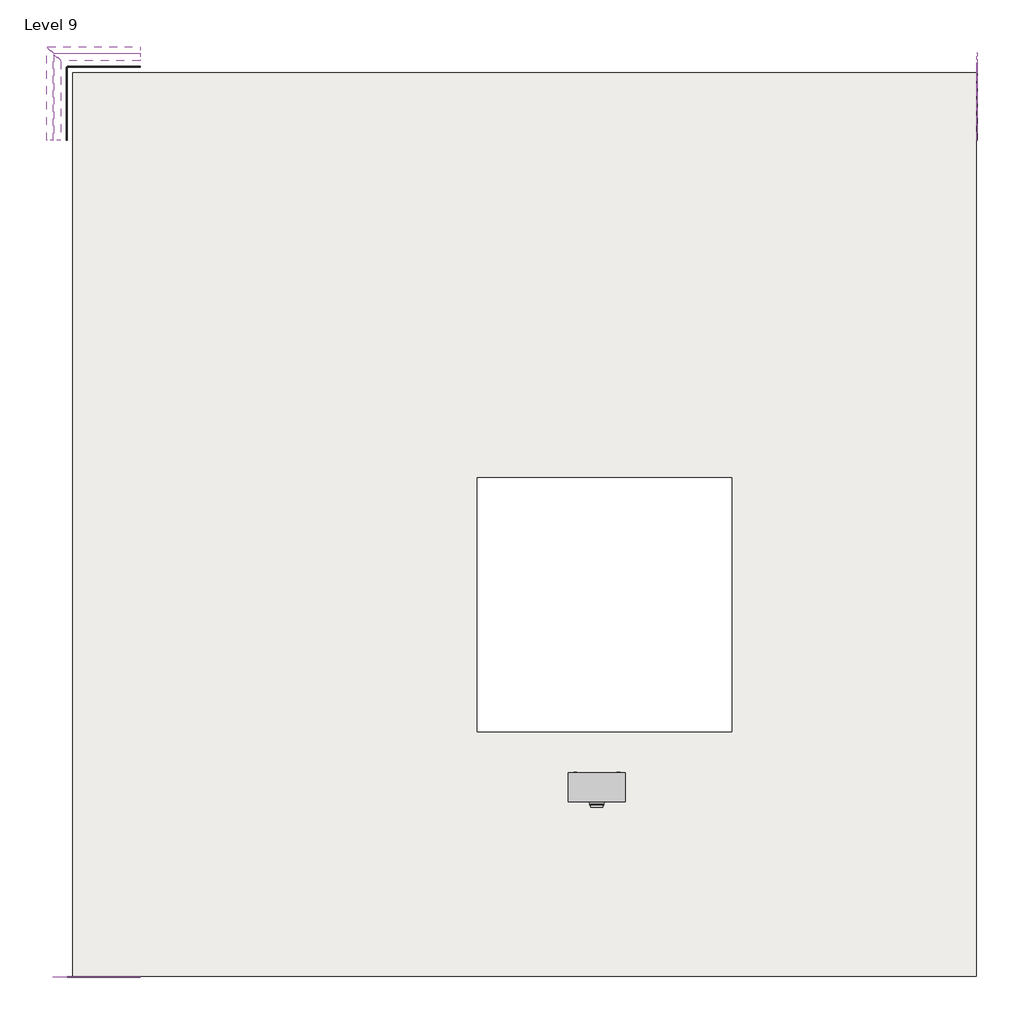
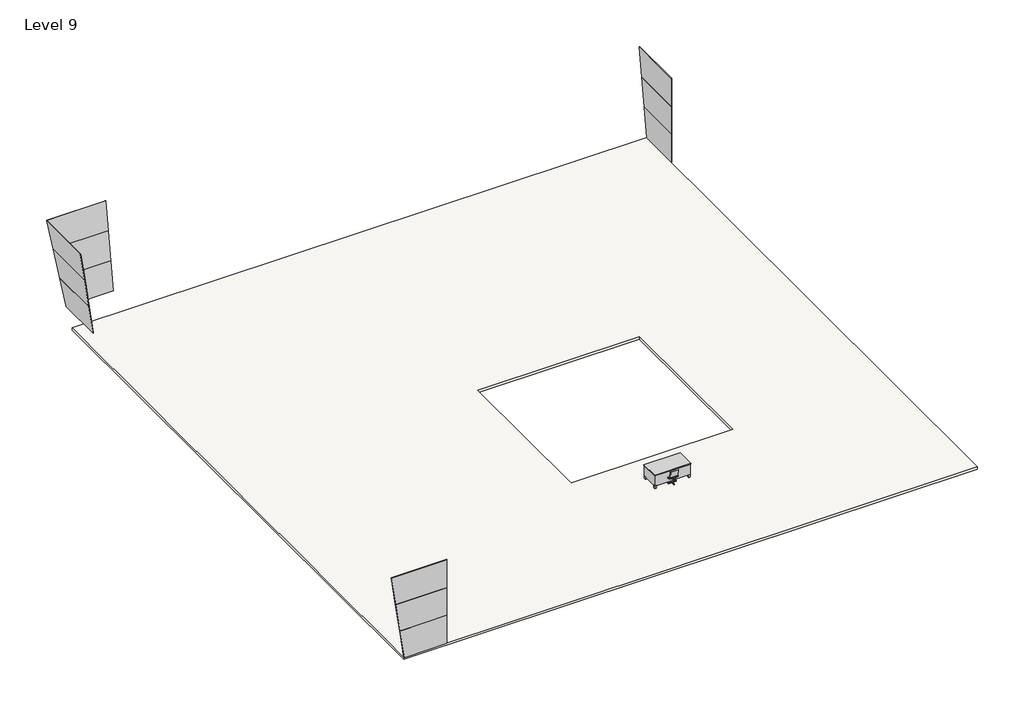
# One storey, incomplete: 12 plates, 2 furniture elements, 1 slab.
"""IFC4 building model written with IfcOpenShell, lengths in millimetres."""

import ifcopenshell
import ifcopenshell.guid

model = None  # the IFC model being written
_history = None  # IfcOwnerHistory: only IFC2X3 demands one
_inside = {}  # id of a spatial element -> (the spatial element, [elements in it])
_under = {}  # id of a project, library or spatial element -> (it, [spatial elements below it])
_declared = {}  # id of a project -> (the project, [libraries it declares])
_typed = {}  # id of a type object -> (the type object, [elements of that type])
_made_of = {}  # id of a material, layer set ... -> (it, [elements and type objects made of it])


def new_model(schema):
    """Start an empty IFC model of exactly this schema.

    Asked for "IFC4X3", IfcOpenShell would pick the latest addendum, in which some entities
    have other attributes; the version numbers below select the first issue.
    IFC2X3 requires an IfcOwnerHistory on every rooted entity: one is made here for all.
    """
    global model, _history
    if schema == "IFC4X3":
        model = ifcopenshell.file(schema_version=(4, 3, 0, 0))
    else:
        model = ifcopenshell.file(schema=schema)
    _inside.clear()
    _under.clear()
    _declared.clear()
    _typed.clear()
    _made_of.clear()
    _history = None
    if model.schema == "IFC2X3":
        org = make("IfcOrganization", Name="unknown")
        user = make(
            "IfcPersonAndOrganization",
            ThePerson=make("IfcPerson", FamilyName="unknown"),
            TheOrganization=org,
        )
        app = make(
            "IfcApplication",
            ApplicationDeveloper=org,
            Version="unknown",
            ApplicationFullName="unknown",
            ApplicationIdentifier="unknown",
        )
        _history = make(
            "IfcOwnerHistory",
            OwningUser=user,
            OwningApplication=app,
            ChangeAction="ADDED",
            CreationDate=0,
        )
    return model


def make(cls, **values):
    """One entity of the class cls with the attributes given. An attribute that is None is left unset."""
    return model.create_entity(
        cls, **{name: value for name, value in values.items() if value is not None}
    )


def rooted(cls, **values):
    """An entity with a GlobalId (a new one), such as an element, a storey or a relation."""
    return make(cls, GlobalId=ifcopenshell.guid.new(), OwnerHistory=_history, **values)


def si_unit(unit_type, name, prefix=None):
    """IfcSIUnit, for example si_unit("LENGTHUNIT", "METRE", prefix="MILLI")."""
    return make("IfcSIUnit", UnitType=unit_type, Prefix=prefix, Name=name)


def assignment(units):
    """IfcUnitAssignment: the units of a project."""
    return None if units is None else make("IfcUnitAssignment", Units=units)


def point(xyz):
    """IfcCartesianPoint."""
    return None if xyz is None else make("IfcCartesianPoint", Coordinates=xyz)


def direction(xyz):
    """IfcDirection."""
    return None if xyz is None else make("IfcDirection", DirectionRatios=xyz)


def frame(location, z_axis=None, x_axis=None):
    """IfcAxis2Placement3D, a coordinate frame: its origin and axes. An axis left out is left unset."""
    return make(
        "IfcAxis2Placement3D",
        Location=point(location),
        Axis=direction(z_axis),
        RefDirection=direction(x_axis),
    )


def frame_2d(location, x_axis=None):
    """IfcAxis2Placement2D, a coordinate frame in the plane: its origin and x axis."""
    return make(
        "IfcAxis2Placement2D", Location=point(location), RefDirection=direction(x_axis)
    )


def origin():
    """The frame at (0, 0, 0) with its axes left unset."""
    return frame((0.0, 0.0, 0.0))


def origin_with_axes():
    """The frame at (0, 0, 0) with the z axis (0, 0, 1) and the x axis (1, 0, 0) written out."""
    return frame((0.0, 0.0, 0.0), z_axis=(0.0, 0.0, 1.0), x_axis=(1.0, 0.0, 0.0))


def place(relative_to, where):
    """IfcLocalPlacement: puts the frame where relative to a parent placement (None: the world)."""
    return make(
        "IfcLocalPlacement", PlacementRelTo=relative_to, RelativePlacement=where
    )


def context(
    kind, dimensions, precision=None, world=None, true_north=None, identifier=None
):
    """IfcGeometricRepresentationContext, for example the 3D "Model" context."""
    return make(
        "IfcGeometricRepresentationContext",
        ContextIdentifier=identifier,
        ContextType=kind,
        CoordinateSpaceDimension=dimensions,
        Precision=precision,
        WorldCoordinateSystem=world,
        TrueNorth=true_north,
    )


def project(units=None, contexts=None):
    """IfcProject with its units and contexts."""
    return rooted(
        "IfcProject",
        Name="project",
        RepresentationContexts=contexts,
        UnitsInContext=assignment(units),
    )


def spatial(cls, under=None, at=None, **own):
    """A site, building, storey or space (cls), placed at a placement, below another one or the project."""
    s = rooted(cls, ObjectPlacement=at, **own)
    if under is not None:
        _under.setdefault(under.id(), (under, []))[1].append(s)
    return s


def polyline(points):
    """IfcPolyline through the points."""
    return make("IfcPolyline", Points=[point(p) for p in points])


def circle_curve(where, radius):
    """IfcCircle in the frame where."""
    return make("IfcCircle", Position=where, Radius=radius)


def trimmed(basis, trim1, trim2, sense, master):
    """IfcTrimmedCurve: the piece of a basis curve between two trims."""
    return make(
        "IfcTrimmedCurve",
        BasisCurve=basis,
        Trim1=trim1,
        Trim2=trim2,
        SenseAgreement=sense,
        MasterRepresentation=master,
    )


def segment(curve, same_sense, transition):
    """IfcCompositeCurveSegment."""
    return make(
        "IfcCompositeCurveSegment",
        Transition=transition,
        SameSense=same_sense,
        ParentCurve=curve,
    )


def composite_curve(segments, self_intersect=None):
    """IfcCompositeCurve: segments joined end to end."""
    return make("IfcCompositeCurve", Segments=segments, SelfIntersect=self_intersect)


def outline(outer, holes=None, kind="AREA"):
    """IfcArbitraryClosedProfileDef: a profile drawn as a closed curve; with holes, ...WithVoids."""
    if holes is None:
        return make("IfcArbitraryClosedProfileDef", ProfileType=kind, OuterCurve=outer)
    return make(
        "IfcArbitraryProfileDefWithVoids",
        ProfileType=kind,
        OuterCurve=outer,
        InnerCurves=holes,
    )


def extrude(swept, where, along, depth):
    """IfcExtrudedAreaSolid: the profile swept, set in the frame where, extruded along a direction by depth."""
    return make(
        "IfcExtrudedAreaSolid",
        SweptArea=swept,
        Position=where,
        ExtrudedDirection=direction(along),
        Depth=depth,
    )


def faces_of(points, faces, orient=None, outer=None):
    """IfcFace entities. A face is a list of loops; a loop is a list of indices into points, from 0.

    orient and outer hold one flag for each loop. By default every Orientation is true, the
    first loop of a face is its IfcFaceOuterBound and the others are IfcFaceBound.
    """
    made = []
    for i, loops in enumerate(faces):
        bounds = []
        for j, loop in enumerate(loops):
            is_outer = j == 0 if outer is None else outer[i][j]
            bounds.append(
                make(
                    "IfcFaceOuterBound" if is_outer else "IfcFaceBound",
                    Bound=make("IfcPolyLoop", Polygon=[points[k] for k in loop]),
                    Orientation=True if orient is None else orient[i][j],
                )
            )
        made.append(make("IfcFace", Bounds=bounds))
    return made


def faceted_brep(points, faces, orient=None, outer=None, voids=None):
    """IfcFacetedBrep: a solid bounded by flat faces; with voids (closed shells), ...WithVoids."""
    shared = [point(p) for p in points]
    hull = make("IfcClosedShell", CfsFaces=faces_of(shared, faces, orient, outer))
    if voids is None:
        return make("IfcFacetedBrep", Outer=hull)
    return make(
        "IfcFacetedBrepWithVoids",
        Outer=hull,
        Voids=[
            make(cls, CfsFaces=faces_of(shared, fs, o, b)) for cls, fs, o, b in voids
        ],
    )


def shape(context_of_items, identifier, shape_type, items):
    """IfcShapeRepresentation: the items that make up one representation, for example the "Body"."""
    return make(
        "IfcShapeRepresentation",
        ContextOfItems=context_of_items,
        RepresentationIdentifier=identifier,
        RepresentationType=shape_type,
        Items=items,
    )


def source(mapping_origin, context_of_items, identifier, shape_type, items):
    """IfcRepresentationMap: a shape defined once, which mapped items show again and again."""
    return make(
        "IfcRepresentationMap",
        MappingOrigin=mapping_origin,
        MappedRepresentation=shape(context_of_items, identifier, shape_type, items),
    )


def transform(
    local_origin,
    x_axis=None,
    y_axis=None,
    z_axis=None,
    scale=None,
    scale2=None,
    scale3=None,
    uniform=True,
):
    """IfcCartesianTransformationOperator3D, or its non-uniform kind. x_axis, y_axis, z_axis: its Axis1, 2, 3."""
    if uniform:
        return make(
            "IfcCartesianTransformationOperator3D",
            Axis1=direction(x_axis),
            Axis2=direction(y_axis),
            LocalOrigin=point(local_origin),
            Scale=scale,
            Axis3=direction(z_axis),
        )
    return make(
        "IfcCartesianTransformationOperator3DnonUniform",
        Axis1=direction(x_axis),
        Axis2=direction(y_axis),
        LocalOrigin=point(local_origin),
        Scale=scale,
        Axis3=direction(z_axis),
        Scale2=scale2,
        Scale3=scale3,
    )


def mapped(mapping_source, mapping_target):
    """IfcMappedItem: shows the shape of a source again, moved by a transform."""
    return make(
        "IfcMappedItem", MappingSource=mapping_source, MappingTarget=mapping_target
    )


def made_of(thing, what):
    """Note that an element or type object is made of a material, layer set ...; save() writes the relation."""
    if what is not None:
        _made_of.setdefault(what.id(), (what, []))[1].append(thing)
    return thing


def element(
    cls,
    number,
    at=None,
    inside=None,
    cuts=None,
    type_object=None,
    material=None,
    context=None,
    identifier="Body",
    shape_type=None,
    held_by="IfcProductDefinitionShape",
    body=None,
    shapes=None,
    **own,
):
    """One element of the class cls, such as IfcWall. Its Tag is "e" and its number.

    at: its placement. inside: the storey or other place that contains it. cuts: it is an
    opening in that element (IfcRelVoidsElement). A single representation is given by context,
    identifier, shape_type and body (its items); several are given by shapes. held_by: the class
    of the entity that holds the representations. save() writes the other relations.
    """
    e = rooted(cls, Tag="e%d" % number, ObjectPlacement=at, **own)
    if body is not None:
        shapes = [shape(context, identifier, shape_type, body)]
    if shapes is not None:
        e.Representation = make(held_by, Representations=shapes)
    if inside is not None:
        _inside.setdefault(inside.id(), (inside, []))[1].append(e)
    if cuts is not None:
        rooted(
            "IfcRelVoidsElement", RelatingBuildingElement=cuts, RelatedOpeningElement=e
        )
    if type_object is not None:
        _typed.setdefault(type_object.id(), (type_object, []))[1].append(e)
    return made_of(e, material)


def aggregate(whole, parts):
    """IfcRelAggregates: a whole, such as a stair, and the parts it consists of."""
    return rooted("IfcRelAggregates", RelatingObject=whole, RelatedObjects=parts)


def save(model, path):
    """Write the relations noted so far, then the file.

    IfcRelAggregates (storeys below a building ...), IfcRelContainedInSpatialStructure (elements
    in a storey), IfcRelDefinesByType, IfcRelAssociatesMaterial and IfcRelDeclares: one each for
    every whole, place, type object, material and project.
    """
    for whole, parts in _under.values():
        aggregate(whole, parts)
    for where, things in _inside.values():
        rooted(
            "IfcRelContainedInSpatialStructure",
            RelatedElements=things,
            RelatingStructure=where,
        )
    for kind, things in _typed.values():
        rooted("IfcRelDefinesByType", RelatedObjects=things, RelatingType=kind)
    for what, things in _made_of.values():
        rooted("IfcRelAssociatesMaterial", RelatedObjects=things, RelatingMaterial=what)
    for by, libraries in _declared.values():
        rooted("IfcRelDeclares", RelatingContext=by, RelatedDefinitions=libraries)
    model.write(path)


def chair_desk_chair_desk_ccc35c8f(model_context):
    return source(origin(), model_context, "Body", "SweptSolid", [
        extrude(outline(polyline([(-203.6618182, 175.0290909), (-25.8618182, 175.0290909), (-25.8618182, 150.0462968), (-203.6618182, 150.0462968), (-203.6618182, 175.0290909)])), origin_with_axes(), (0.0, 0.0, 1.0), 58.5040426),
        extrude(outline(polyline([(204.1236364, 175.0290909), (204.1236364, 152.4), (26.7854545, 152.4), (26.7854545, 175.0290909), (204.1236364, 175.0290909)])), origin_with_axes(), (0.0, 0.0, 1.0), 58.5040426),
        extrude(outline(polyline([(-16.1636364, 188.8836364), (-16.1636364, 374.9517514), (14.3163636, 374.9517514), (14.3163636, 188.8836364), (-16.1636364, 188.8836364)])), origin_with_axes(), (0.0, 0.0, 1.0), 58.5040426),
        extrude(outline(polyline([(14.3163636, 136.2363636), (14.3163636, -33.2509091), (-16.1636364, -33.2509091), (-16.1636364, 136.2363636), (14.3163636, 136.2363636)])), origin_with_axes(), (0.0, 0.0, 1.0), 58.5040426),
        extrude(outline(polyline([(26.3236364, 190.2690909), (26.3236364, 139.4690909), (-24.4763636, 139.4690909), (-24.4763636, 190.2690909), (26.3236364, 190.2690909)])), origin_with_axes(), (0.0, 0.0, 1.0), 355.6),
        extrude(outline(composite_curve([segment(polyline([(-13.6321252, 787.4), (25.5523927, 451.3880753)]), True, "CONTINUOUS"), segment(trimmed(circle_curve(frame_2d((0.0761963, 451.3880753)), 25.4761963), [point((25.5523927, 451.3880753))], [point((-25.4, 451.3880753))], False, "CARTESIAN"), True, "CONTINUOUS"), segment(polyline([(-25.4, 451.3880753), (-67.209111, 787.4)]), True, "CONTINUOUS"), segment(trimmed(circle_curve(frame_2d((-40.4206181, 787.4)), 26.7884929), [point((-67.209111, 787.4))], [point((-13.6321252, 787.4))], False, "CARTESIAN"), True, "CONTINUOUS")], self_intersect=False)), frame((-194.3643056, 0.0, 0.0), z_axis=(1.0, 0.0, 0.0), x_axis=(0.0, 1.0, 0.0)), (0.0, 0.0, 1.0), 383.2768056),
        extrude(outline(composite_curve([segment(trimmed(circle_curve(frame_2d((-157.1362322, 297.1024212)), 109.4001491), [point((-266.4057871, 302.4462968))], [point((-152.4, 406.4))], False, "CARTESIAN"), True, "CONTINUOUS"), segment(polyline([(-152.4, 406.4), (162.2530084, 406.4)]), True, "CONTINUOUS"), segment(trimmed(circle_curve(frame_2d((162.2530084, 302.4462968)), 103.9537032), [point((162.2530084, 406.4))], [point((266.2067116, 302.4462968))], False, "CARTESIAN"), True, "CONTINUOUS"), segment(polyline([(266.2067116, 302.4462968), (228.6, 0.0)]), True, "CONTINUOUS"), segment(trimmed(circle_curve(frame_2d((0.0, 446.8941036)), 501.9684252), [point((228.6, 0.0))], [point((-228.6, 0.0))], False, "CARTESIAN"), True, "CONTINUOUS"), segment(polyline([(-228.6, 0.0), (-266.4057871, 302.4462968)]), True, "CONTINUOUS")], self_intersect=False)), frame((0.0, 0.0, 355.6), z_axis=(0.0, 0.0, 1.0), x_axis=(1.0, 0.0, 0.0)), (0.0, 0.0, 1.0), 50.8),
    ])


def furniture_2fc54265(model_context):
    return source(origin(), model_context, "Body", "SolidModel", [
        extrude(outline(polyline([(1809.75, 914.4), (1441.45, 914.4), (1441.45, 927.1), (1809.75, 927.1), (1809.75, 914.4)])), frame((0.0, 0.0, 603.25), z_axis=(0.0, 0.0, 1.0), x_axis=(1.0, 0.0, 0.0)), (0.0, 0.0, 1.0), 101.6),
        extrude(outline(polyline([(1809.75, 914.4), (1441.45, 914.4), (1441.45, 927.1), (1809.75, 927.1), (1809.75, 914.4)])), frame((0.0, 0.0, 171.45), z_axis=(0.0, 0.0, 1.0), x_axis=(1.0, 0.0, 0.0)), (0.0, 0.0, 1.0), 412.75),
        extrude(outline(polyline([(387.35, 914.4), (19.05, 914.4), (19.05, 927.1), (387.35, 927.1), (387.35, 914.4)])), frame((0.0, 0.0, 603.25), z_axis=(0.0, 0.0, 1.0), x_axis=(1.0, 0.0, 0.0)), (0.0, 0.0, 1.0), 101.6),
        extrude(outline(polyline([(387.35, 914.4), (19.05, 914.4), (19.05, 927.1), (387.35, 927.1), (387.35, 914.4)])), frame((0.0, 0.0, 171.45), z_axis=(0.0, 0.0, 1.0), x_axis=(1.0, 0.0, 0.0)), (0.0, 0.0, 1.0), 171.45),
        extrude(outline(polyline([(387.35, 914.4), (19.05, 914.4), (19.05, 927.1), (387.35, 927.1), (387.35, 914.4)])), frame((0.0, 0.0, 482.6), z_axis=(0.0, 0.0, 1.0), x_axis=(1.0, 0.0, 0.0)), (0.0, 0.0, 1.0), 101.6),
        extrude(outline(polyline([(387.35, 914.4), (19.05, 914.4), (19.05, 927.1), (387.35, 927.1), (387.35, 914.4)])), frame((0.0, 0.0, 361.95), z_axis=(0.0, 0.0, 1.0), x_axis=(1.0, 0.0, 0.0)), (0.0, 0.0, 1.0), 101.6),
        faceted_brep([(1727.2, 914.4, 152.4), (1727.2, 812.8, 152.4), (1828.8, 812.8, 152.4), (1828.8, 914.4, 152.4), (1752.6, 914.4, 0.0), (1828.8, 914.4, 0.0), (1828.8, 838.2, 0.0), (1752.6, 838.2, 0.0)], [[[0, 1, 2, 3]], [[4, 5, 6, 7]], [[4, 7, 1, 0]], [[7, 6, 2, 1]], [[6, 5, 3, 2]], [[5, 4, 0, 3]]]),
        faceted_brep([(1727.2, 0.0, 152.4), (1828.8, 0.0, 152.4), (1828.8, 101.6, 152.4), (1727.2, 101.6, 152.4), (1752.6, 0.0, 0.0), (1752.6, 76.2, 0.0), (1828.8, 76.2, 0.0), (1828.8, 0.0, 0.0)], [[[0, 1, 2, 3]], [[4, 5, 6, 7]], [[4, 7, 1, 0]], [[7, 6, 2, 1]], [[6, 5, 3, 2]], [[5, 4, 0, 3]]]),
        faceted_brep([(101.6, 0.0, 152.4), (101.6, 101.6, 152.4), (0.0, 101.6, 152.4), (0.0, 0.0, 152.4), (76.2, 0.0, 0.0), (0.0, 0.0, 0.0), (0.0, 76.2, 0.0), (76.2, 76.2, 0.0)], [[[0, 1, 2, 3]], [[4, 5, 6, 7]], [[4, 7, 1, 0]], [[7, 6, 2, 1]], [[6, 5, 3, 2]], [[5, 4, 0, 3]]]),
        faceted_brep([(101.6, 914.4, 152.4), (0.0, 914.4, 152.4), (0.0, 812.8, 152.4), (101.6, 812.8, 152.4), (76.2, 914.4, 0.0), (76.2, 838.2, 0.0), (0.0, 838.2, 0.0), (0.0, 914.4, 0.0)], [[[0, 1, 2, 3]], [[4, 5, 6, 7]], [[4, 7, 1, 0]], [[7, 6, 2, 1]], [[6, 5, 3, 2]], [[5, 4, 0, 3]]]),
        extrude(outline(polyline([(1847.85, 933.45), (1847.85, -19.05), (-19.05, -19.05), (-19.05, 933.45), (1847.85, 933.45)])), frame((0.0, 0.0, 723.9), z_axis=(0.0, 0.0, 1.0), x_axis=(1.0, 0.0, 0.0)), (0.0, 0.0, 1.0), 38.1),
        extrude(outline(polyline([(406.4, 914.4), (406.4, 50.8), (1422.4, 50.8), (1422.4, 914.4), (1828.8, 914.4), (1828.8, 0.0), (0.0, 0.0), (0.0, 914.4), (406.4, 914.4)])), frame((0.0, 0.0, 152.4), z_axis=(0.0, 0.0, 1.0), x_axis=(1.0, 0.0, 0.0)), (0.0, 0.0, 1.0), 571.5),
        faceted_brep([(1670.05, 927.1, 546.1), (1670.05, 927.1, 533.4), (1676.4, 927.1, 533.4), (1676.4, 927.1, 546.1), (1670.05, 946.15, 546.1), (1670.05, 946.15, 533.4), (1676.4, 952.5, 533.4), (1676.4, 952.5, 546.1), (1581.15, 946.15, 546.1), (1581.15, 946.15, 533.4), (1574.8, 952.5, 533.4), (1574.8, 952.5, 546.1), (1581.15, 927.1, 546.1), (1574.8, 927.1, 546.1), (1574.8, 927.1, 533.4), (1581.15, 927.1, 533.4)], [[[0, 1, 2, 3]], [[1, 0, 4, 5]], [[2, 1, 5, 6]], [[3, 2, 6, 7]], [[0, 3, 7, 4]], [[5, 4, 8, 9]], [[6, 5, 9, 10]], [[7, 6, 10, 11]], [[4, 7, 11, 8]], [[12, 13, 14, 15]], [[9, 8, 12, 15]], [[10, 9, 15, 14]], [[11, 10, 14, 13]], [[8, 11, 13, 12]]]),
        faceted_brep([(1670.05, 927.1, 666.75), (1670.05, 927.1, 654.05), (1676.4, 927.1, 654.05), (1676.4, 927.1, 666.75), (1670.05, 946.15, 666.75), (1670.05, 946.15, 654.05), (1676.4, 952.5, 654.05), (1676.4, 952.5, 666.75), (1581.15, 946.15, 666.75), (1581.15, 946.15, 654.05), (1574.8, 952.5, 654.05), (1574.8, 952.5, 666.75), (1581.15, 927.1, 666.75), (1574.8, 927.1, 666.75), (1574.8, 927.1, 654.05), (1581.15, 927.1, 654.05)], [[[0, 1, 2, 3]], [[1, 0, 4, 5]], [[2, 1, 5, 6]], [[3, 2, 6, 7]], [[0, 3, 7, 4]], [[5, 4, 8, 9]], [[6, 5, 9, 10]], [[7, 6, 10, 11]], [[4, 7, 11, 8]], [[12, 13, 14, 15]], [[9, 8, 12, 15]], [[10, 9, 15, 14]], [[11, 10, 14, 13]], [[8, 11, 13, 12]]]),
        faceted_brep([(158.75, 927.1, 304.8), (152.4, 927.1, 304.8), (152.4, 927.1, 292.1), (158.75, 927.1, 292.1), (158.75, 946.15, 304.8), (152.4, 952.5, 304.8), (152.4, 952.5, 292.1), (158.75, 946.15, 292.1), (247.65, 946.15, 304.8), (254.0, 952.5, 304.8), (254.0, 952.5, 292.1), (247.65, 946.15, 292.1), (247.65, 927.1, 304.8), (247.65, 927.1, 292.1), (254.0, 927.1, 292.1), (254.0, 927.1, 304.8)], [[[0, 1, 2, 3]], [[1, 0, 4, 5]], [[2, 1, 5, 6]], [[3, 2, 6, 7]], [[0, 3, 7, 4]], [[5, 4, 8, 9]], [[6, 5, 9, 10]], [[7, 6, 10, 11]], [[4, 7, 11, 8]], [[12, 13, 14, 15]], [[9, 8, 12, 15]], [[10, 9, 15, 14]], [[11, 10, 14, 13]], [[8, 11, 13, 12]]]),
        faceted_brep([(158.75, 927.1, 425.45), (152.4, 927.1, 425.45), (152.4, 927.1, 412.75), (158.75, 927.1, 412.75), (158.75, 946.15, 425.45), (152.4, 952.5, 425.45), (152.4, 952.5, 412.75), (158.75, 946.15, 412.75), (247.65, 946.15, 425.45), (254.0, 952.5, 425.45), (254.0, 952.5, 412.75), (247.65, 946.15, 412.75), (247.65, 927.1, 425.45), (247.65, 927.1, 412.75), (254.0, 927.1, 412.75), (254.0, 927.1, 425.45)], [[[0, 1, 2, 3]], [[1, 0, 4, 5]], [[2, 1, 5, 6]], [[3, 2, 6, 7]], [[0, 3, 7, 4]], [[5, 4, 8, 9]], [[6, 5, 9, 10]], [[7, 6, 10, 11]], [[4, 7, 11, 8]], [[12, 13, 14, 15]], [[9, 8, 12, 15]], [[10, 9, 15, 14]], [[11, 10, 14, 13]], [[8, 11, 13, 12]]]),
        faceted_brep([(158.75, 927.1, 546.1), (152.4, 927.1, 546.1), (152.4, 927.1, 533.4), (158.75, 927.1, 533.4), (158.75, 946.15, 546.1), (152.4, 952.5, 546.1), (152.4, 952.5, 533.4), (158.75, 946.15, 533.4), (247.65, 946.15, 546.1), (254.0, 952.5, 546.1), (254.0, 952.5, 533.4), (247.65, 946.15, 533.4), (247.65, 927.1, 546.1), (247.65, 927.1, 533.4), (254.0, 927.1, 533.4), (254.0, 927.1, 546.1)], [[[0, 1, 2, 3]], [[1, 0, 4, 5]], [[2, 1, 5, 6]], [[3, 2, 6, 7]], [[0, 3, 7, 4]], [[5, 4, 8, 9]], [[6, 5, 9, 10]], [[7, 6, 10, 11]], [[4, 7, 11, 8]], [[12, 13, 14, 15]], [[9, 8, 12, 15]], [[10, 9, 15, 14]], [[11, 10, 14, 13]], [[8, 11, 13, 12]]]),
        faceted_brep([(158.75, 927.1, 666.75), (152.4, 927.1, 666.75), (152.4, 927.1, 654.05), (158.75, 927.1, 654.05), (158.75, 946.15, 666.75), (152.4, 952.5, 666.75), (152.4, 952.5, 654.05), (158.75, 946.15, 654.05), (247.65, 946.15, 666.75), (254.0, 952.5, 666.75), (254.0, 952.5, 654.05), (247.65, 946.15, 654.05), (247.65, 927.1, 666.75), (247.65, 927.1, 654.05), (254.0, 927.1, 654.05), (254.0, 927.1, 666.75)], [[[0, 1, 2, 3]], [[1, 0, 4, 5]], [[2, 1, 5, 6]], [[3, 2, 6, 7]], [[0, 3, 7, 4]], [[5, 4, 8, 9]], [[6, 5, 9, 10]], [[7, 6, 10, 11]], [[4, 7, 11, 8]], [[12, 13, 14, 15]], [[9, 8, 12, 15]], [[10, 9, 15, 14]], [[11, 10, 14, 13]], [[8, 11, 13, 12]]]),
    ])


def system_panel_glazed_377c946f(model_context):
    return source(origin(), model_context, "Body", "SweptSolid", [
        extrude(outline(polyline([(0.0, -1080.5442614), (0.0, 1297.5896165), (1524.0, 1297.5896165), (1524.0, -1297.5896165), (0.0, -1080.5442614)])), frame((0.0, 19.05, 0.0), z_axis=(0.0, 1.0, 0.0), x_axis=(0.0, 0.0, 1.0)), (0.0, 0.0, 1.0), 25.4),
    ])


def system_panel_glazed_bb4d1e5a(model_context):
    return source(origin(), model_context, "Body", "SweptSolid", [
        extrude(outline(polyline([(0.0, -1189.0669389), (0.0, 1406.1122941), (1524.0, 1406.1122941), (1524.0, -1406.1122941), (0.0, -1189.0669389)])), frame((0.0, 19.05, 0.0), z_axis=(0.0, 1.0, 0.0), x_axis=(0.0, 0.0, 1.0)), (0.0, 0.0, 1.0), 25.4),
    ])


def system_panel_glazed_2e2ccb96(model_context):
    return source(origin(), model_context, "Body", "SweptSolid", [
        extrude(outline(polyline([(0.0, -1297.5896165), (0.0, 1514.6349716), (1524.0, 1514.6349716), (1524.0, -1514.6349716), (0.0, -1297.5896165)])), frame((0.0, 19.05, 0.0), z_axis=(0.0, 1.0, 0.0), x_axis=(0.0, 0.0, 1.0)), (0.0, 0.0, 1.0), 25.4),
    ])


def system_panel_glazed_0e86cbdc(model_context):
    return source(origin(), model_context, "Body", "SweptSolid", [
        extrude(outline(polyline([(0.0, -1297.5896162), (0.0, 1080.5442611), (1524.0, 1297.5896162), (1524.0, -1297.5896162), (0.0, -1297.5896162)])), frame((0.0, 19.05, 0.0), z_axis=(0.0, 1.0, 0.0), x_axis=(0.0, 0.0, 1.0)), (0.0, 0.0, 1.0), 25.4),
    ])


def system_panel_glazed_2e0de5f2(model_context):
    return source(origin(), model_context, "Body", "SweptSolid", [
        extrude(outline(polyline([(0.0, -1406.1122937), (0.0, 1189.0669386), (1524.0, 1406.1122937), (1524.0, -1406.1122937), (0.0, -1406.1122937)])), frame((0.0, 19.05, 0.0), z_axis=(0.0, 1.0, 0.0), x_axis=(0.0, 0.0, 1.0)), (0.0, 0.0, 1.0), 25.4),
    ])


def system_panel_glazed_cd39b145(model_context):
    return source(origin(), model_context, "Body", "SweptSolid", [
        extrude(outline(polyline([(0.0, -1514.6349713), (0.0, 1297.5896162), (1524.0, 1514.6349713), (1524.0, -1514.6349713), (0.0, -1514.6349713)])), frame((0.0, 19.05, 0.0), z_axis=(0.0, 1.0, 0.0), x_axis=(0.0, 0.0, 1.0)), (0.0, 0.0, 1.0), 25.4),
    ])


def system_panel_glazed_e904b9b9(model_context):
    return source(origin(), model_context, "Body", "SweptSolid", [
        extrude(outline(polyline([(0.0, -997.7266189), (0.0, 1217.0071944), (1524.0, 1217.0071944), (1524.0, -1217.0071944), (0.0, -997.7266189)])), frame((0.0, 19.05, 0.0), z_axis=(0.0, 1.0, 0.0), x_axis=(0.0, 0.0, 1.0)), (0.0, 0.0, 1.0), 25.4),
    ])


def system_panel_glazed_b419dbc8(model_context):
    return source(origin(), model_context, "Body", "SweptSolid", [
        extrude(outline(polyline([(0.0, -1107.3669066), (0.0, 1326.6474822), (1524.0, 1326.6474822), (1524.0, -1326.6474822), (0.0, -1107.3669066)])), frame((0.0, 19.05, 0.0), z_axis=(0.0, 1.0, 0.0), x_axis=(0.0, 0.0, 1.0)), (0.0, 0.0, 1.0), 25.4),
    ])


def system_panel_glazed_d8f58ad4(model_context):
    return source(origin(), model_context, "Body", "SweptSolid", [
        extrude(outline(polyline([(0.0, -1217.0071944), (0.0, 1436.2877699), (1524.0, 1436.2877699), (1524.0, -1436.2877699), (0.0, -1217.0071944)])), frame((0.0, 19.05, 0.0), z_axis=(0.0, 1.0, 0.0), x_axis=(0.0, 0.0, 1.0)), (0.0, 0.0, 1.0), 25.4),
    ])


def system_panel_glazed_b40ceba6(model_context):
    return source(origin(), model_context, "Body", "SweptSolid", [
        extrude(outline(polyline([(0.0, -1217.0071941), (0.0, 997.7266186), (1524.0, 1217.0071941), (1524.0, -1217.0071941), (0.0, -1217.0071941)])), frame((0.0, 19.05, 0.0), z_axis=(0.0, 1.0, 0.0), x_axis=(0.0, 0.0, 1.0)), (0.0, 0.0, 1.0), 25.4),
    ])


def system_panel_glazed_f98ec8a0(model_context):
    return source(origin(), model_context, "Body", "SweptSolid", [
        extrude(outline(polyline([(0.0, -1326.6474819), (0.0, 1107.3669063), (1524.0, 1326.6474819), (1524.0, -1326.6474819), (0.0, -1326.6474819)])), frame((0.0, 19.05, 0.0), z_axis=(0.0, 1.0, 0.0), x_axis=(0.0, 0.0, 1.0)), (0.0, 0.0, 1.0), 25.4),
    ])


def system_panel_glazed_e8fac23b(model_context):
    return source(origin(), model_context, "Body", "SweptSolid", [
        extrude(outline(polyline([(0.0, -1436.2877696), (0.0, 1217.0071941), (1524.0, 1436.2877696), (1524.0, -1436.2877696), (0.0, -1436.2877696)])), frame((0.0, 19.05, 0.0), z_axis=(0.0, 1.0, 0.0), x_axis=(0.0, 0.0, 1.0)), (0.0, 0.0, 1.0), 25.4),
    ])


model = new_model("IFC4")

# Units and contexts
model_context = context("Model", 3, world=origin())
ifc_project = project(units=[si_unit("LENGTHUNIT", "METRE", prefix="MILLI")], contexts=[model_context])

# Site, building, storey
site = spatial("IfcSite", under=ifc_project)
building = spatial("IfcBuilding", under=site)
storey = spatial("IfcBuildingStorey", under=building, Name="Level 9", Elevation=36576.0)

# Furniture
placement = place(None, origin())
chair_desk_chair_desk_shape = chair_desk_chair_desk_ccc35c8f(model_context)
element("IfcFurniture", 1, ObjectType="Chair-Desk : Chair-Desk", at=placement, inside=storey, context=model_context, shape_type="MappedRepresentation", body=[
    mapped(chair_desk_chair_desk_shape, transform((-3928.2026957, -6947.9708988, 36576.0), x_axis=(1.0, 0.0, 0.0), y_axis=(0.0, 1.0, 0.0), z_axis=(0.0, 0.0, 1.0))),
])
furniture_shape = furniture_2fc54265(model_context)
element("IfcFurniture", 2, ObjectType="Desk : 72\" x 36\"", at=placement, inside=storey, context=model_context, shape_type="MappedRepresentation", body=[
    mapped(furniture_shape, transform((-4842.6026957, -6820.9708988, 36576.0), x_axis=(1.0, 0.0, 0.0), y_axis=(0.0, 1.0, 0.0), z_axis=(0.0, 0.0, 1.0))),
])

# Plates
system_panel_glazed_shape = system_panel_glazed_377c946f(model_context)
element("IfcPlate", 3, ObjectType="System Panel : Glazed", at=placement, inside=storey, context=model_context, shape_type="MappedRepresentation", body=[
    mapped(system_panel_glazed_shape, transform((-20211.7923118, 17248.7629788, 37711.6304493), x_axis=(1.0, 0.0, 0.0), y_axis=(0.0, 0.9898065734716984, -0.1424182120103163), z_axis=(0.0, 0.1424182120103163, 0.9898065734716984))),
])
system_panel_glazed_2_shape = system_panel_glazed_bb4d1e5a(model_context)
element("IfcPlate", 4, ObjectType="System Panel : Glazed", at=placement, inside=storey, context=model_context, shape_type="MappedRepresentation", body=[
    mapped(system_panel_glazed_2_shape, transform((-20320.3149894, 17465.8083339, 39220.0956672), x_axis=(1.0, 0.0, 0.0), y_axis=(0.0, 0.9898065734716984, -0.1424182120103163), z_axis=(0.0, 0.1424182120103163, 0.9898065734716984))),
])
system_panel_glazed_3_shape = system_panel_glazed_2e2ccb96(model_context)
element("IfcPlate", 5, ObjectType="System Panel : Glazed", at=placement, inside=storey, context=model_context, shape_type="MappedRepresentation", body=[
    mapped(system_panel_glazed_3_shape, transform((-20428.837667, 17682.853689, 40728.5608852), x_axis=(1.0, 0.0, 0.0), y_axis=(0.0, 0.9898065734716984, -0.1424182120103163), z_axis=(0.0, 0.1424182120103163, 0.9898065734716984))),
])
system_panel_glazed_4_shape = system_panel_glazed_0e86cbdc(model_context)
element("IfcPlate", 6, ObjectType="System Panel : Glazed", at=placement, inside=storey, context=model_context, shape_type="MappedRepresentation", body=[
    mapped(system_panel_glazed_4_shape, transform((-21292.3365732, 16168.2187177, 37711.6304493), x_axis=(0.0, 1.0, 0.0), y_axis=(-0.9898065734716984, 0.0, -0.1424182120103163), z_axis=(-0.1424182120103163, 0.0, 0.9898065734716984))),
])
system_panel_glazed_5_shape = system_panel_glazed_2e0de5f2(model_context)
element("IfcPlate", 7, ObjectType="System Panel : Glazed", at=placement, inside=storey, context=model_context, shape_type="MappedRepresentation", body=[
    mapped(system_panel_glazed_5_shape, transform((-21509.3819283, 16276.7413952, 39220.0956672), x_axis=(0.0, 1.0, 0.0), y_axis=(-0.9898065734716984, 0.0, -0.1424182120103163), z_axis=(-0.1424182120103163, 0.0, 0.9898065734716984))),
])
system_panel_glazed_6_shape = system_panel_glazed_cd39b145(model_context)
element("IfcPlate", 8, ObjectType="System Panel : Glazed", at=placement, inside=storey, context=model_context, shape_type="MappedRepresentation", body=[
    mapped(system_panel_glazed_6_shape, transform((-21726.4272835, 16385.2640728, 40728.5608852), x_axis=(0.0, 1.0, 0.0), y_axis=(-0.9898065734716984, 0.0, -0.1424182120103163), z_axis=(-0.1424182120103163, 0.0, 0.9898065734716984))),
])
system_panel_glazed_7_shape = system_panel_glazed_e904b9b9(model_context)
element("IfcPlate", 9, ObjectType="System Panel : Glazed", at=placement, inside=storey, context=model_context, shape_type="MappedRepresentation", body=[
    mapped(system_panel_glazed_7_shape, transform((8517.7973043, 16087.6362952, 36576.0), x_axis=(0.0, -1.0, 0.0), y_axis=(1.0, 0.0, 0.0), z_axis=(0.0, 0.0, 1.0))),
])
system_panel_glazed_8_shape = system_panel_glazed_b419dbc8(model_context)
element("IfcPlate", 10, ObjectType="System Panel : Glazed", at=placement, inside=storey, context=model_context, shape_type="MappedRepresentation", body=[
    mapped(system_panel_glazed_8_shape, transform((8517.7973043, 16197.276583, 38100.0), x_axis=(0.0, -1.0, 0.0), y_axis=(1.0, 0.0, 0.0), z_axis=(0.0, 0.0, 1.0))),
])
system_panel_glazed_9_shape = system_panel_glazed_d8f58ad4(model_context)
element("IfcPlate", 11, ObjectType="System Panel : Glazed", at=placement, inside=storey, context=model_context, shape_type="MappedRepresentation", body=[
    mapped(system_panel_glazed_9_shape, transform((8517.7973043, 16306.9168708, 39624.0), x_axis=(0.0, -1.0, 0.0), y_axis=(1.0, 0.0, 0.0), z_axis=(0.0, 0.0, 1.0))),
])
system_panel_glazed_10_shape = system_panel_glazed_b40ceba6(model_context)
element("IfcPlate", 12, ObjectType="System Panel : Glazed", at=placement, inside=storey, context=model_context, shape_type="MappedRepresentation", body=[
    mapped(system_panel_glazed_10_shape, transform((-20131.20989, -12561.3708988, 36576.0), x_axis=(-1.0, 0.0, 0.0), y_axis=(0.0, -1.0, 0.0), z_axis=(0.0, 0.0, 1.0))),
])
system_panel_glazed_11_shape = system_panel_glazed_f98ec8a0(model_context)
element("IfcPlate", 13, ObjectType="System Panel : Glazed", at=placement, inside=storey, context=model_context, shape_type="MappedRepresentation", body=[
    mapped(system_panel_glazed_11_shape, transform((-20240.8501778, -12561.3708988, 38100.0), x_axis=(-1.0, 0.0, 0.0), y_axis=(0.0, -1.0, 0.0), z_axis=(0.0, 0.0, 1.0))),
])
system_panel_glazed_12_shape = system_panel_glazed_e8fac23b(model_context)
element("IfcPlate", 14, ObjectType="System Panel : Glazed", at=placement, inside=storey, context=model_context, shape_type="MappedRepresentation", body=[
    mapped(system_panel_glazed_12_shape, transform((-20350.4904656, -12561.3708988, 39624.0), x_axis=(-1.0, 0.0, 0.0), y_axis=(0.0, -1.0, 0.0), z_axis=(0.0, 0.0, 1.0))),
])

# Slab
element("IfcSlab", 15, ObjectType="3\" LW Concrete on 2\" Metal Deck", at=placement, inside=storey, context=model_context, shape_type="SweptSolid", body=[
    extrude(outline(polyline([(-21128.9365086, -12561.3708988), (-21128.9365086, 17085.3629141), (8517.7973043, 17085.3629141), (8517.7973043, -12561.3708988), (-21128.9365086, -12561.3708988)]), holes=[polyline([(-7844.5651957, 3800.9916012), (-7844.5651957, -4539.7333988), (496.1598043, -4539.7333988), (496.1598043, 3800.9916012), (-7844.5651957, 3800.9916012)])]), frame((0.0, 0.0, 36449.0), z_axis=(0.0, 0.0, 1.0), x_axis=(1.0, 0.0, 0.0)), (0.0, 0.0, 1.0), 127.0),
])

save(model, "model.ifc")
